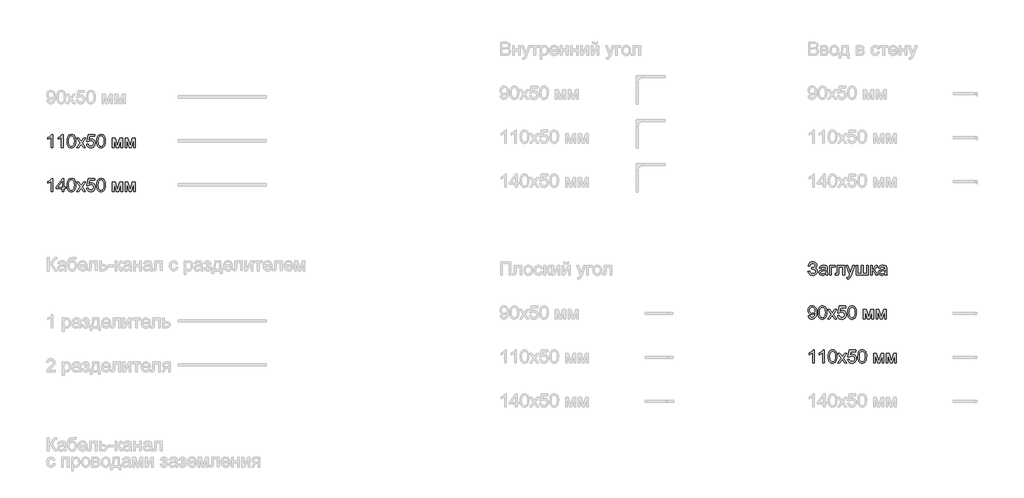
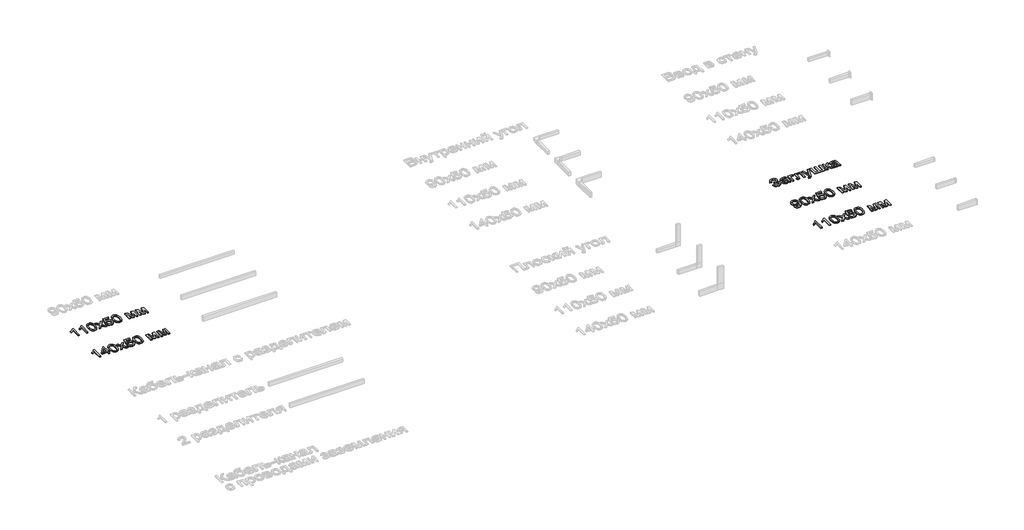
# One storey, part 86 of 168: 5 proxies.
"""IFC4 building model written with IfcOpenShell, lengths in millimetres."""

from ifc_helpers import new_model, si_unit, origin, origin_with_axes, place, context, project, spatial, polyline, outline, extrude, element, save

model = new_model("IFC4")

# Units and contexts
model_context = context("Model", 3, world=origin())
ifc_project = project(units=[si_unit("LENGTHUNIT", "METRE", prefix="MILLI")], contexts=[model_context])

# Site, building, storey
site = spatial("IfcSite", under=ifc_project)
building = spatial("IfcBuilding", under=site)
storey = spatial("IfcBuildingStorey", under=building, Name="Этаж 01", Elevation=0.0)

# Proxies
placement = place(None, origin())
element("IfcBuildingElementProxy", 1, Name="300 мм Arial 2", ObjectType="300 мм Arial 2", at=placement, inside=storey, context=model_context, shape_type="SweptSolid", body=[
    extrude(outline(polyline([(905.9577491, -14248.4056816), (868.2866328, -14248.4056816), (868.2866328, -14013.5498158), (832.6020793, -14038.9704617), (792.9444002, -14057.9899609), (792.9444002, -14022.3789837), (822.5313096, -14006.2841464), (848.1634877, -13987.1358886), (868.3694062, -13966.7736202), (881.6775374, -13947.0367511), (905.9577491, -13947.0367511), (905.9577491, -14248.4056816)])), origin_with_axes(), (0.0, 0.0, 1.0), 20.0),
    extrude(outline(polyline([(1136.6933365, -14248.4056816), (1099.0222202, -14248.4056816), (1099.0222202, -14013.5498158), (1063.3376666, -14038.9704617), (1023.6799876, -14057.9899609), (1023.6799876, -14022.3789837), (1053.266897, -14006.2841464), (1078.899075, -13987.1358886), (1099.1049936, -13966.7736202), (1112.4131248, -13947.0367511), (1136.6933365, -13947.0367511), (1136.6933365, -14248.4056816)])), origin_with_axes(), (0.0, 0.0, 1.0), 20.0),
    extrude(outline(polyline([(1226.1622377, -14100.1492375), (1228.9305497, -14051.9107109), (1237.2354858, -14013.4394512), (1250.9942724, -13984.1468474), (1270.1241361, -13963.4442881), (1294.7630327, -13951.1386354), (1325.048918, -13947.0367511), (1348.2622719, -13949.4647723), (1369.0476046, -13956.7488358), (1386.4300289, -13968.6038331), (1399.4346574, -13984.7446556), (1409.2571067, -14005.0333477), (1417.0929932, -14029.3319534), (1422.224947, -14060.1880558), (1423.9355983, -14100.1492375), (1421.1948774, -14148.1118526), (1412.9727148, -14186.4911418), (1399.2967017, -14215.8113368), (1380.1944291, -14236.5966695), (1355.5003502, -14248.9850957), (1325.048918, -14253.1145711), (1304.3003735, -14251.3211464), (1285.9062737, -14245.9408722), (1269.8666187, -14236.9737486), (1256.1814085, -14224.4197755), (1243.0480213, -14201.7260549), (1233.6670304, -14173.4497251), (1228.0384359, -14139.5907859), (1226.1622377, -14100.1492375)]), holes=[polyline([(1263.833354, -14100.0756611), (1268.2479379, -14159.3322535), (1273.7661679, -14179.6002522), (1281.4916898, -14193.6280525), (1301.2101647, -14209.9896042), (1325.048918, -14215.4434548), (1348.8876713, -14209.9712101), (1368.6061462, -14193.5544761), (1376.3316681, -14179.5036831), (1381.8498981, -14159.240283), (1386.264482, -14100.0756611), (1381.9970509, -14042.152641), (1376.6627619, -14021.9513209), (1369.1947574, -14007.5901275), (1349.5130707, -13990.4284325), (1324.6074596, -13984.7078674), (1301.0262237, -13989.7478508), (1282.080301, -14004.8678008), (1274.0972617, -14020.5027856), (1268.3950907, -14041.5824239), (1263.833354, -14100.0756611)])]), origin_with_axes(), (0.0, 0.0, 1.0), 20.0),
    extrude(outline(polyline([(1442.7711565, -14248.4056816), (1523.263737, -14137.1581662), (1447.480046, -14027.0878733), (1492.8031078, -14027.0878733), (1529.3705781, -14080.0628806), (1546.4403027, -14105.0788562), (1561.2291589, -14084.6246173), (1602.8734008, -14027.0878733), (1648.1964626, -14027.0878733), (1568.5867988, -14137.1581662), (1645.2534066, -14248.4056816), (1599.9303448, -14248.4056816), (1553.7979426, -14181.5247348), (1545.3366567, -14169.3110526), (1488.0942183, -14248.4056816), (1442.7711565, -14248.4056816)])), origin_with_axes(), (0.0, 0.0, 1.0), 20.0),
    extrude(outline(polyline([(1668.7978543, -14168.3545594), (1706.4689706, -14163.6456699), (1713.3851521, -14186.2612155), (1725.4516816, -14202.4572204), (1742.6133766, -14212.1968962), (1764.815055, -14215.4434548), (1791.8175935, -14210.9277033), (1812.0511032, -14197.3804488), (1824.6878498, -14176.3651899), (1828.9000986, -14149.4454249), (1824.9545642, -14124.0983554), (1813.117961, -14104.7109743), (1793.2983185, -14092.4053215), (1765.4036662, -14088.3034373), (1747.1291281, -14089.9405121), (1732.3310749, -14094.8517368), (1711.1778601, -14111.847885), (1673.5067438, -14107.1389954), (1706.4689706, -13951.7456407), (1852.4445463, -13951.7456407), (1852.4445463, -13989.416757), (1736.9295998, -13989.416757), (1720.8163684, -14072.4109351), (1747.7269364, -14056.0769745), (1775.9250913, -14050.632321), (1794.2709065, -14052.3199796), (1811.1222012, -14057.3829556), (1826.4789752, -14065.8212488), (1840.3412286, -14077.6348594), (1851.8168476, -14092.1018189), (1860.0137183, -14108.5001588), (1864.9318408, -14126.8298792), (1866.5712149, -14147.0909801), (1860.6667089, -14184.7620964), (1853.2860764, -14201.5559095), (1842.9531908, -14216.9885592), (1827.2998119, -14232.7936894), (1809.0344709, -14244.0830681), (1788.1571676, -14250.8566954), (1764.6679022, -14253.1145711), (1727.6681706, -14247.3112326), (1711.9894998, -14240.0570595), (1698.1916257, -14229.9012172), (1686.7114082, -14217.3495434), (1677.9857071, -14202.9078758), (1668.7978543, -14168.3545594)])), origin_with_axes(), (0.0, 0.0, 1.0), 20.0),
    extrude(outline(polyline([(1899.5334417, -14100.1492375), (1902.3017537, -14051.9107109), (1910.6066897, -14013.4394512), (1924.3654763, -13984.1468474), (1943.4953401, -13963.4442881), (1968.1342367, -13951.1386354), (1998.420122, -13947.0367511), (2021.6334759, -13949.4647723), (2042.4188086, -13956.7488358), (2059.8012329, -13968.6038331), (2072.8058614, -13984.7446556), (2082.6283107, -14005.0333477), (2090.4641972, -14029.3319534), (2095.596151, -14060.1880558), (2097.3068023, -14100.1492375), (2094.5660814, -14148.1118526), (2086.3439188, -14186.4911418), (2072.6679056, -14215.8113368), (2053.565633, -14236.5966695), (2028.8715541, -14248.9850957), (1998.420122, -14253.1145711), (1977.6715774, -14251.3211464), (1959.2774777, -14245.9408722), (1943.2378227, -14236.9737486), (1929.5526125, -14224.4197755), (1916.4192252, -14201.7260549), (1907.0382344, -14173.4497251), (1901.4096398, -14139.5907859), (1899.5334417, -14100.1492375)]), holes=[polyline([(1937.204558, -14100.0756611), (1941.6191419, -14159.3322535), (1947.1373718, -14179.6002522), (1954.8628937, -14193.6280525), (1974.5813687, -14209.9896042), (1998.420122, -14215.4434548), (2022.2588753, -14209.9712101), (2041.9773502, -14193.5544761), (2049.7028721, -14179.5036831), (2055.221102, -14159.240283), (2059.635686, -14100.0756611), (2055.3682548, -14042.152641), (2050.0339659, -14021.9513209), (2042.5659614, -14007.5901275), (2022.8842747, -13990.4284325), (1997.9786636, -13984.7078674), (1974.3974277, -13989.7478508), (1955.4515049, -14004.8678008), (1947.4684656, -14020.5027856), (1941.7662947, -14041.5824239), (1937.204558, -14100.0756611)])]), origin_with_axes(), (0.0, 0.0, 1.0), 20.0),
    extrude(outline(polyline([(2257.4090466, -14027.0878733), (2322.2298541, -14027.0878733), (2372.1882291, -14204.2598421), (2426.0461532, -14027.0878733), (2488.144634, -14027.0878733), (2488.144634, -14248.4056816), (2450.4735176, -14248.4056816), (2450.4735176, -14070.2036431), (2396.321288, -14248.4056816), (2346.8779478, -14248.4056816), (2295.0801629, -14061.6687808), (2295.0801629, -14248.4056816), (2257.4090466, -14248.4056816), (2257.4090466, -14027.0878733)])), origin_with_axes(), (0.0, 0.0, 1.0), 20.0),
    extrude(outline(polyline([(2544.6513084, -14027.0878733), (2609.472116, -14027.0878733), (2659.4304909, -14204.2598421), (2713.288415, -14027.0878733), (2775.3868958, -14027.0878733), (2775.3868958, -14248.4056816), (2737.7157795, -14248.4056816), (2737.7157795, -14070.2036431), (2683.5635498, -14248.4056816), (2634.1202096, -14248.4056816), (2582.3224247, -14061.6687808), (2582.3224247, -14248.4056816), (2544.6513084, -14248.4056816), (2544.6513084, -14027.0878733)])), origin_with_axes(), (0.0, 0.0, 1.0), 20.0),
])
element("IfcBuildingElementProxy", 2, Name="300 мм Arial 2", ObjectType="300 мм Arial 2", at=placement, inside=storey, context=model_context, shape_type="SweptSolid", body=[
    extrude(outline(polyline([(905.9577491, -15248.4056816), (868.2866328, -15248.4056816), (868.2866328, -15013.5498158), (832.6020793, -15038.9704617), (792.9444002, -15057.9899609), (792.9444002, -15022.3789837), (822.5313096, -15006.2841464), (848.1634877, -14987.1358886), (868.3694062, -14966.7736202), (881.6775374, -14947.0367511), (905.9577491, -14947.0367511), (905.9577491, -15248.4056816)])), origin_with_axes(), (0.0, 0.0, 1.0), 20.0),
    extrude(outline(polyline([(1117.8577783, -15248.4056816), (1117.8577783, -15177.7723385), (981.2999817, -15177.7723385), (981.2999817, -15140.1012222), (1127.2755574, -14951.7456407), (1155.5288946, -14951.7456407), (1155.5288946, -15140.1012222), (1193.2000109, -15140.1012222), (1193.2000109, -15177.7723385), (1155.5288946, -15177.7723385), (1155.5288946, -15248.4056816), (1117.8577783, -15248.4056816)]), holes=[polyline([(1117.8577783, -15140.1012222), (1117.8577783, -15023.7033589), (1027.6531131, -15140.1012222), (1117.8577783, -15140.1012222)])]), origin_with_axes(), (0.0, 0.0, 1.0), 20.0),
    extrude(outline(polyline([(1226.1622377, -15100.1492375), (1228.9305497, -15051.9107109), (1237.2354858, -15013.4394512), (1250.9942724, -14984.1468474), (1270.1241361, -14963.4442881), (1294.7630327, -14951.1386354), (1325.048918, -14947.0367511), (1348.2622719, -14949.4647723), (1369.0476046, -14956.7488358), (1386.4300289, -14968.6038331), (1399.4346574, -14984.7446556), (1409.2571067, -15005.0333477), (1417.0929932, -15029.3319534), (1422.224947, -15060.1880558), (1423.9355983, -15100.1492375), (1421.1948774, -15148.1118526), (1412.9727148, -15186.4911418), (1399.2967017, -15215.8113368), (1380.1944291, -15236.5966695), (1355.5003502, -15248.9850957), (1325.048918, -15253.1145711), (1304.3003735, -15251.3211464), (1285.9062737, -15245.9408722), (1269.8666187, -15236.9737486), (1256.1814085, -15224.4197755), (1243.0480213, -15201.7260549), (1233.6670304, -15173.4497251), (1228.0384359, -15139.5907859), (1226.1622377, -15100.1492375)]), holes=[polyline([(1263.833354, -15100.0756611), (1268.2479379, -15159.3322535), (1273.7661679, -15179.6002522), (1281.4916898, -15193.6280525), (1301.2101647, -15209.9896042), (1325.048918, -15215.4434548), (1348.8876713, -15209.9712101), (1368.6061462, -15193.5544761), (1376.3316681, -15179.5036831), (1381.8498981, -15159.240283), (1386.264482, -15100.0756611), (1381.9970509, -15042.152641), (1376.6627619, -15021.9513209), (1369.1947574, -15007.5901275), (1349.5130707, -14990.4284325), (1324.6074596, -14984.7078674), (1301.0262237, -14989.7478508), (1282.080301, -15004.8678008), (1274.0972617, -15020.5027856), (1268.3950907, -15041.5824239), (1263.833354, -15100.0756611)])]), origin_with_axes(), (0.0, 0.0, 1.0), 20.0),
    extrude(outline(polyline([(1442.7711565, -15248.4056816), (1523.263737, -15137.1581662), (1447.480046, -15027.0878733), (1492.8031078, -15027.0878733), (1529.3705781, -15080.0628806), (1546.4403027, -15105.0788562), (1561.2291589, -15084.6246173), (1602.8734008, -15027.0878733), (1648.1964626, -15027.0878733), (1568.5867988, -15137.1581662), (1645.2534066, -15248.4056816), (1599.9303448, -15248.4056816), (1553.7979426, -15181.5247348), (1545.3366567, -15169.3110526), (1488.0942183, -15248.4056816), (1442.7711565, -15248.4056816)])), origin_with_axes(), (0.0, 0.0, 1.0), 20.0),
    extrude(outline(polyline([(1668.7978543, -15168.3545594), (1706.4689706, -15163.6456699), (1713.3851521, -15186.2612155), (1725.4516816, -15202.4572204), (1742.6133766, -15212.1968962), (1764.815055, -15215.4434548), (1791.8175935, -15210.9277033), (1812.0511032, -15197.3804488), (1824.6878498, -15176.3651899), (1828.9000986, -15149.4454249), (1824.9545642, -15124.0983554), (1813.117961, -15104.7109743), (1793.2983185, -15092.4053215), (1765.4036662, -15088.3034373), (1747.1291281, -15089.9405121), (1732.3310749, -15094.8517368), (1711.1778601, -15111.847885), (1673.5067438, -15107.1389954), (1706.4689706, -14951.7456407), (1852.4445463, -14951.7456407), (1852.4445463, -14989.416757), (1736.9295998, -14989.416757), (1720.8163684, -15072.4109351), (1747.7269364, -15056.0769745), (1775.9250913, -15050.632321), (1794.2709065, -15052.3199796), (1811.1222012, -15057.3829556), (1826.4789752, -15065.8212488), (1840.3412286, -15077.6348594), (1851.8168476, -15092.1018189), (1860.0137183, -15108.5001588), (1864.9318408, -15126.8298792), (1866.5712149, -15147.0909801), (1860.6667089, -15184.7620964), (1853.2860764, -15201.5559095), (1842.9531908, -15216.9885592), (1827.2998119, -15232.7936894), (1809.0344709, -15244.0830681), (1788.1571676, -15250.8566954), (1764.6679022, -15253.1145711), (1727.6681706, -15247.3112326), (1711.9894998, -15240.0570595), (1698.1916257, -15229.9012172), (1686.7114082, -15217.3495434), (1677.9857071, -15202.9078758), (1668.7978543, -15168.3545594)])), origin_with_axes(), (0.0, 0.0, 1.0), 20.0),
    extrude(outline(polyline([(1899.5334417, -15100.1492375), (1902.3017537, -15051.9107109), (1910.6066897, -15013.4394512), (1924.3654763, -14984.1468474), (1943.4953401, -14963.4442881), (1968.1342367, -14951.1386354), (1998.420122, -14947.0367511), (2021.6334759, -14949.4647723), (2042.4188086, -14956.7488358), (2059.8012329, -14968.6038331), (2072.8058614, -14984.7446556), (2082.6283107, -15005.0333477), (2090.4641972, -15029.3319534), (2095.596151, -15060.1880558), (2097.3068023, -15100.1492375), (2094.5660814, -15148.1118526), (2086.3439188, -15186.4911418), (2072.6679056, -15215.8113368), (2053.565633, -15236.5966695), (2028.8715541, -15248.9850957), (1998.420122, -15253.1145711), (1977.6715774, -15251.3211464), (1959.2774777, -15245.9408722), (1943.2378227, -15236.9737486), (1929.5526125, -15224.4197755), (1916.4192252, -15201.7260549), (1907.0382344, -15173.4497251), (1901.4096398, -15139.5907859), (1899.5334417, -15100.1492375)]), holes=[polyline([(1937.204558, -15100.0756611), (1941.6191419, -15159.3322535), (1947.1373718, -15179.6002522), (1954.8628937, -15193.6280525), (1974.5813687, -15209.9896042), (1998.420122, -15215.4434548), (2022.2588753, -15209.9712101), (2041.9773502, -15193.5544761), (2049.7028721, -15179.5036831), (2055.221102, -15159.240283), (2059.635686, -15100.0756611), (2055.3682548, -15042.152641), (2050.0339659, -15021.9513209), (2042.5659614, -15007.5901275), (2022.8842747, -14990.4284325), (1997.9786636, -14984.7078674), (1974.3974277, -14989.7478508), (1955.4515049, -15004.8678008), (1947.4684656, -15020.5027856), (1941.7662947, -15041.5824239), (1937.204558, -15100.0756611)])]), origin_with_axes(), (0.0, 0.0, 1.0), 20.0),
    extrude(outline(polyline([(2257.4090466, -15027.0878733), (2322.2298541, -15027.0878733), (2372.1882291, -15204.2598421), (2426.0461532, -15027.0878733), (2488.144634, -15027.0878733), (2488.144634, -15248.4056816), (2450.4735176, -15248.4056816), (2450.4735176, -15070.2036431), (2396.321288, -15248.4056816), (2346.8779478, -15248.4056816), (2295.0801629, -15061.6687808), (2295.0801629, -15248.4056816), (2257.4090466, -15248.4056816), (2257.4090466, -15027.0878733)])), origin_with_axes(), (0.0, 0.0, 1.0), 20.0),
    extrude(outline(polyline([(2544.6513084, -15027.0878733), (2609.472116, -15027.0878733), (2659.4304909, -15204.2598421), (2713.288415, -15027.0878733), (2775.3868958, -15027.0878733), (2775.3868958, -15248.4056816), (2737.7157795, -15248.4056816), (2737.7157795, -15070.2036431), (2683.5635498, -15248.4056816), (2634.1202096, -15248.4056816), (2582.3224247, -15061.6687808), (2582.3224247, -15248.4056816), (2544.6513084, -15248.4056816), (2544.6513084, -15027.0878733)])), origin_with_axes(), (0.0, 0.0, 1.0), 20.0),
])
element("IfcBuildingElementProxy", 3, Name="300 мм Arial 2", ObjectType="300 мм Arial 2", at=placement, inside=storey, context=model_context, shape_type="SweptSolid", body=[
    extrude(outline(polyline([(18064.6910629, -17063.6456699), (18102.3621793, -17054.2278908), (18110.3176274, -17074.6177504), (18125.5019568, -17095.0260041), (18147.3633443, -17110.3390921), (18175.3499671, -17115.4434548), (18203.7044719, -17111.608285), (18225.3451302, -17100.1027756), (18239.0579316, -17083.1710068), (18243.6288654, -17063.0570587), (18238.6348673, -17041.9866174), (18223.6528731, -17025.7170362), (18200.0624401, -17015.3151728), (18169.243126, -17011.847885), (18149.4510746, -17011.847885), (18149.4510746, -16974.1767687), (18192.0885979, -16971.1233481), (18205.9853402, -16965.6970887), (18218.1714313, -16955.5251515), (18226.6695054, -16942.1250498), (18229.5021968, -16927.0142969), (18225.7314063, -16909.2731877), (18214.419035, -16894.0152819), (18196.6687287, -16883.5030539), (18173.5841335, -16879.9989779), (18152.7160273, -16882.6937135), (18135.140465, -16890.7779203), (18121.675984, -16903.3134993), (18113.1411217, -16919.3623514), (18107.0710688, -16945.9234314), (18069.3999525, -16936.5056523), (18081.1031985, -16895.3028689), (18090.5175286, -16879.1160611), (18102.306997, -16865.8723093), (18116.4716034, -16855.5716134), (18133.011348, -16848.2139735), (18151.9262307, -16843.7993896), (18173.2162515, -16842.3278616), (18193.727972, -16843.8568711), (18212.0002109, -16848.4438998), (18228.0329681, -16856.0889475), (18241.8262436, -16866.7920143), (18252.9155865, -16879.5414247), (18260.8365457, -16893.3255032), (18265.5891213, -16908.1442498), (18267.1733131, -16923.9976645), (18264.7085037, -16943.8219055), (18257.3140756, -16961.2825047), (18244.9900288, -16976.3794621), (18227.7363632, -16989.1127777), (18248.6872428, -16998.760483), (18265.9225143, -17015.0484583), (18277.4556149, -17036.5787521), (18281.2999817, -17061.9534127), (18279.4559732, -17080.5843365), (18273.9239477, -17097.6287692), (18264.7039052, -17113.0867108), (18251.7958457, -17126.9581613), (18235.8435627, -17138.4015906), (18217.4908496, -17146.5754686), (18196.7377066, -17151.4797955), (18173.5841335, -17153.1145711), (18135.3795883, -17147.5227648), (18119.0226351, -17140.5330069), (18104.4958948, -17130.7473458), (18091.7993675, -17118.1657816), (18080.933053, -17102.7883142), (18064.6910629, -17063.6456699)])), origin_with_axes(), (0.0, 0.0, 1.0), 20.0),
    extrude(outline(polyline([(18469.6555632, -17120.1523443), (18451.6569366, -17135.584994), (18433.1248811, -17145.6833548), (18413.6363324, -17151.256767), (18392.7682262, -17153.1145711), (18361.2867245, -17148.6448049), (18338.0641736, -17135.2355061), (18323.7443669, -17114.8732377), (18318.971098, -17089.5445623), (18320.7737198, -17073.9279716), (18326.1815851, -17059.7461207), (18334.5233094, -17047.6060149), (18345.1275079, -17038.1146594), (18371.5046469, -17025.7538244), (18404.0989917, -17020.0884417), (18442.6162366, -17014.1287533), (18469.434834, -17007.1389954), (18469.6555632, -16998.7512859), (18467.0619952, -16981.9390788), (18459.281291, -16970.9394071), (18441.8804726, -16962.7724268), (18417.6370491, -16960.0501), (18395.1962474, -16961.8619189), (18379.5244744, -16967.2973753), (18368.8375025, -16977.3497509), (18361.3511039, -16993.0123268), (18323.6799876, -16988.3034373), (18330.21909, -16967.7020455), (18339.9771599, -16951.5152378), (18353.8647053, -16939.1360086), (18372.7922339, -16929.9573528), (18395.9412085, -16924.273576), (18422.4930915, -16922.3789837), (18447.9597226, -16924.0528468), (18468.1472471, -16929.074436), (18483.3683646, -16936.625214), (18493.9357749, -16945.8866432), (18500.9439269, -16957.3369703), (18505.4872696, -16971.4544419), (18507.3266795, -17004.4166687), (18507.3266795, -17051.2848348), (18509.2396659, -17116.7310418), (18516.7444586, -17148.4056816), (18479.0733423, -17148.4056816), (18469.6555632, -17120.1523443)]), holes=[polyline([(18469.6555632, -17044.8101117), (18408.8814576, -17056.3616064), (18376.4710539, -17062.4684475), (18361.7925623, -17072.4012614), (18356.6422143, -17086.895812), (18359.4473145, -17098.0978187), (18367.8626152, -17107.2764745), (18381.7041752, -17113.4017097), (18400.7880537, -17115.4434548), (18421.0215635, -17113.1901776), (18438.9006284, -17106.4303459), (18453.3951791, -17096.4699409), (18463.4751457, -17084.6149436), (18467.944912, -17072.4012614), (18469.434834, -17055.4786896), (18469.6555632, -17044.8101117)])]), origin_with_axes(), (0.0, 0.0, 1.0), 20.0),
    extrude(outline(polyline([(18559.1244645, -16927.0878733), (18681.5555925, -16927.0878733), (18681.5555925, -16964.7589896), (18596.7955808, -16964.7589896), (18596.7955808, -17148.4056816), (18559.1244645, -17148.4056816), (18559.1244645, -16927.0878733)])), origin_with_axes(), (0.0, 0.0, 1.0), 20.0),
    extrude(outline(polyline([(18728.6444878, -16927.0878733), (18898.1645112, -16927.0878733), (18898.1645112, -17148.1849524), (18860.4933949, -17148.1849524), (18860.4933949, -16964.7589896), (18766.3156041, -16964.7589896), (18766.3156041, -17070.3411222), (18763.7772184, -17119.0486984), (18759.0223436, -17130.0759612), (18749.8344908, -17139.6133019), (18735.8917631, -17146.2075866), (18716.872264, -17148.4056816), (18686.264482, -17146.4926952), (18686.264482, -17110.7345653), (18703.1134774, -17110.7345653), (18720.1464138, -17108.4169087), (18726.9522307, -17101.0592688), (18728.6444878, -17068.2074066), (18728.6444878, -16927.0878733)])), origin_with_axes(), (0.0, 0.0, 1.0), 20.0),
    extrude(outline(polyline([(18954.6711857, -17233.1656933), (18949.9622961, -17196.8925285), (18969.0921599, -17200.2034665), (18986.9712249, -17196.0463999), (18997.9341083, -17184.4581171), (19008.2348042, -17156.7198147), (19011.1778601, -17147.5963412), (18931.126738, -16927.0878733), (18970.8579935, -16927.0878733), (19013.3115757, -17049.9604597), (19028.1004319, -17099.1094942), (19042.8892881, -17055.6994188), (19086.5200928, -16927.0878733), (19125.9570426, -16927.0878733), (19048.9225528, -17153.7031823), (19028.9097723, -17202.8522169), (19018.6642587, -17218.5423839), (19007.0575818, -17229.4132969), (18993.5747067, -17235.7592613), (18977.7005986, -17237.8745828), (18954.6711857, -17233.1656933)])), origin_with_axes(), (0.0, 0.0, 1.0), 20.0),
    extrude(outline(polyline([(19157.1534358, -16927.0878733), (19194.8245521, -16927.0878733), (19194.8245521, -17110.7345653), (19279.5845638, -17110.7345653), (19279.5845638, -16927.0878733), (19317.2556801, -16927.0878733), (19317.2556801, -17110.7345653), (19402.0156918, -17110.7345653), (19402.0156918, -16927.0878733), (19439.6868081, -16927.0878733), (19439.6868081, -17148.4056816), (19157.1534358, -17148.4056816), (19157.1534358, -16927.0878733)])), origin_with_axes(), (0.0, 0.0, 1.0), 20.0),
    extrude(outline(polyline([(19491.484593, -16927.0878733), (19529.1557093, -16927.0878733), (19529.1557093, -17021.265664), (19544.4779944, -17019.5734069), (19554.3924142, -17014.4966353), (19563.1663998, -17001.2528835), (19575.0673823, -16975.0596854), (19592.2474715, -16941.0306009), (19607.4042097, -16929.9573528), (19634.9585712, -16927.0878733), (19642.1690583, -16927.0878733), (19642.1690583, -16964.9797188), (19632.0155152, -16964.7589896), (19613.6214154, -16968.7321151), (19600.6719692, -16993.5273616), (19585.4784428, -17020.345959), (19564.1780753, -17033.4793463), (19576.115846, -17038.7814455), (19587.9432522, -17048.1394438), (19611.2669707, -17079.0231373), (19651.5868373, -17148.4056816), (19608.7653731, -17148.4056816), (19569.2548468, -17080.4946653), (19549.3892191, -17051.7630814), (19540.1001987, -17046.5483542), (19529.1557093, -17044.8101117), (19529.1557093, -17148.4056816), (19491.484593, -17148.4056816), (19491.484593, -16927.0878733)])), origin_with_axes(), (0.0, 0.0, 1.0), 20.0),
    extrude(outline(polyline([(19816.3979712, -17120.1523443), (19798.3993446, -17135.584994), (19779.8672891, -17145.6833548), (19760.3787404, -17151.256767), (19739.5106342, -17153.1145711), (19708.0291325, -17148.6448049), (19684.8065815, -17135.2355061), (19670.4867748, -17114.8732377), (19665.713506, -17089.5445623), (19667.5161277, -17073.9279716), (19672.9239931, -17059.7461207), (19681.2657173, -17047.6060149), (19691.8699158, -17038.1146594), (19718.2470549, -17025.7538244), (19750.8413996, -17020.0884417), (19789.3586445, -17014.1287533), (19816.177242, -17007.1389954), (19816.3979712, -16998.7512859), (19813.8044031, -16981.9390788), (19806.0236989, -16970.9394071), (19788.6228805, -16962.7724268), (19764.3794571, -16960.0501), (19741.9386554, -16961.8619189), (19726.2668824, -16967.2973753), (19715.5799104, -16977.3497509), (19708.0935118, -16993.0123268), (19670.4223955, -16988.3034373), (19676.961498, -16967.7020455), (19686.7195679, -16951.5152378), (19700.6071132, -16939.1360086), (19719.5346419, -16929.9573528), (19742.6836164, -16924.273576), (19769.2354994, -16922.3789837), (19794.7021305, -16924.0528468), (19814.889655, -16929.074436), (19830.1107726, -16936.625214), (19840.6781829, -16945.8866432), (19847.6863349, -16957.3369703), (19852.2296775, -16971.4544419), (19854.0690875, -17004.4166687), (19854.0690875, -17051.2848348), (19855.9820739, -17116.7310418), (19863.4868666, -17148.4056816), (19825.8157503, -17148.4056816), (19816.3979712, -17120.1523443)]), holes=[polyline([(19816.3979712, -17044.8101117), (19755.6238656, -17056.3616064), (19723.2134618, -17062.4684475), (19708.5349702, -17072.4012614), (19703.3846223, -17086.895812), (19706.1897225, -17098.0978187), (19714.6050231, -17107.2764745), (19728.4465832, -17113.4017097), (19747.5304617, -17115.4434548), (19767.7639714, -17113.1901776), (19785.6430364, -17106.4303459), (19800.137587, -17096.4699409), (19810.2175537, -17084.6149436), (19814.6873199, -17072.4012614), (19816.177242, -17055.4786896), (19816.3979712, -17044.8101117)])]), origin_with_axes(), (0.0, 0.0, 1.0), 20.0),
])
element("IfcBuildingElementProxy", 4, Name="300 мм Arial 2", ObjectType="300 мм Arial 2", at=placement, inside=storey, context=model_context, shape_type="SweptSolid", body=[
    extrude(outline(polyline([(18069.3999525, -18073.063449), (18107.0710688, -18068.3545594), (18113.5090037, -18089.7377004), (18123.9936406, -18104.2966303), (18138.267462, -18112.6567487), (18156.0729505, -18115.4434548), (18172.0482262, -18113.6500301), (18186.5703679, -18108.2697559), (18198.6368974, -18099.8912435), (18207.2453361, -18089.1031039), (18219.5693829, -18056.3616064), (18225.0140364, -18012.6572253), (18224.7933072, -18005.2995854), (18211.7426935, -18021.2288758), (18194.6637718, -18033.8472283), (18174.7889471, -18042.0693909), (18153.3506238, -18044.8101117), (18135.455464, -18043.1362486), (18118.9996425, -18038.1146594), (18103.9831593, -18029.745344), (18090.4060144, -18018.0283025), (18079.1557231, -18003.5751386), (18071.1198008, -17986.9974562), (18066.2982474, -17968.2952553), (18064.6910629, -17947.4685358), (18066.3764223, -17925.9474391), (18071.4325005, -17906.6336343), (18079.8592975, -17889.5271216), (18091.6568132, -17874.6279008), (18105.9927147, -17862.5567728), (18122.0346689, -17853.9345385), (18139.782676, -17848.761198), (18159.2367357, -17847.0367511), (18187.3337231, -17850.9730885), (18212.9107188, -17862.7821005), (18234.3030568, -17881.8751761), (18249.8460711, -17907.6637039), (18259.3098354, -17943.3114693), (18262.4644236, -17991.9822572), (18259.3190325, -18043.5869041), (18249.8828593, -18083.4745094), (18234.2386775, -18113.447695), (18212.4692604, -18135.3090825), (18185.5127072, -18148.663199), (18154.307117, -18153.1145711), (18122.0990483, -18147.8630556), (18096.4024909, -18132.1085092), (18078.4314555, -18106.8442132), (18069.3999525, -18073.063449)]), holes=[polyline([(18224.7933072, -17946.585619), (18220.7282112, -17921.0546085), (18208.5329231, -17901.40971), (18189.6053944, -17888.8833281), (18165.3435768, -17884.7078674), (18140.1804484, -17889.2052248), (18120.020515, -17902.697297), (18106.7767632, -17923.344674), (18102.3621793, -17949.3079458), (18106.5376399, -17972.585679), (18119.0640218, -17991.0625522), (18138.7273145, -18003.1198846), (18164.3135072, -18007.1389954), (18188.3821868, -18003.1198846), (18207.7603709, -17991.0625522), (18220.5350732, -17971.9050973), (18224.7933072, -17946.585619)])]), origin_with_axes(), (0.0, 0.0, 1.0), 20.0),
    extrude(outline(polyline([(18295.4266503, -18000.1492375), (18298.1949623, -17951.9107109), (18306.4998984, -17913.4394512), (18320.258685, -17884.1468474), (18339.3885487, -17863.4442881), (18364.0274454, -17851.1386354), (18394.3133306, -17847.0367511), (18417.5266845, -17849.4647723), (18438.3120172, -17856.7488358), (18455.6944415, -17868.6038331), (18468.6990701, -17884.7446556), (18478.5215193, -17905.0333477), (18486.3574058, -17929.3319534), (18491.4893597, -17960.1880558), (18493.2000109, -18000.1492375), (18490.4592901, -18048.1118526), (18482.2371275, -18086.4911418), (18468.5611143, -18115.8113368), (18449.4588417, -18136.5966695), (18424.7647628, -18148.9850957), (18394.3133306, -18153.1145711), (18373.5647861, -18151.3211464), (18355.1706863, -18145.9408722), (18339.1310313, -18136.9737486), (18325.4458211, -18124.4197755), (18312.3124339, -18101.7260549), (18302.931443, -18073.4497251), (18297.3028485, -18039.5907859), (18295.4266503, -18000.1492375)]), holes=[polyline([(18333.0977666, -18000.0756611), (18337.5123506, -18059.3322535), (18343.0305805, -18079.6002522), (18350.7561024, -18093.6280525), (18370.4745773, -18109.9896042), (18394.3133306, -18115.4434548), (18418.1520839, -18109.9712101), (18437.8705589, -18093.5544761), (18445.5960808, -18079.5036831), (18451.1143107, -18059.240283), (18455.5288946, -18000.0756611), (18451.2614635, -17942.152641), (18445.9271745, -17921.9513209), (18438.45917, -17907.5901275), (18418.7774833, -17890.4284325), (18393.8718722, -17884.7078674), (18370.2906363, -17889.7478508), (18351.3447136, -17904.8678008), (18343.3616743, -17920.5027856), (18337.6595034, -17941.5824239), (18333.0977666, -18000.0756611)])]), origin_with_axes(), (0.0, 0.0, 1.0), 20.0),
    extrude(outline(polyline([(18512.0355691, -18148.4056816), (18592.5281496, -18037.1581662), (18516.7444586, -17927.0878733), (18562.0675204, -17927.0878733), (18598.6349907, -17980.0628806), (18615.7047153, -18005.0788562), (18630.4935715, -17984.6246173), (18672.1378134, -17927.0878733), (18717.4608752, -17927.0878733), (18637.8512114, -18037.1581662), (18714.5178192, -18148.4056816), (18669.1947574, -18148.4056816), (18623.0623552, -18081.5247348), (18614.6010693, -18069.3110526), (18557.3586309, -18148.4056816), (18512.0355691, -18148.4056816)])), origin_with_axes(), (0.0, 0.0, 1.0), 20.0),
    extrude(outline(polyline([(18738.0622669, -18068.3545594), (18775.7333832, -18063.6456699), (18782.6495647, -18086.2612155), (18794.7160942, -18102.4572204), (18811.8777893, -18112.1968962), (18834.0794677, -18115.4434548), (18861.0820061, -18110.9277033), (18881.3155158, -18097.3804488), (18893.9522624, -18076.3651899), (18898.1645112, -18049.4454249), (18894.2189768, -18024.0983554), (18882.3823736, -18004.7109743), (18862.5627311, -17992.4053215), (18834.6680789, -17988.3034373), (18816.3935407, -17989.9405121), (18801.5954875, -17994.8517368), (18780.4422728, -18011.847885), (18742.7711565, -18007.1389954), (18775.7333832, -17851.7456407), (18921.7089589, -17851.7456407), (18921.7089589, -17889.416757), (18806.1940124, -17889.416757), (18790.080781, -17972.4109351), (18816.991349, -17956.0769745), (18845.1895039, -17950.632321), (18863.5353192, -17952.3199796), (18880.3866138, -17957.3829556), (18895.7433878, -17965.8212488), (18909.6056413, -17977.6348594), (18921.0812603, -17992.1018189), (18929.278131, -18008.5001588), (18934.1962534, -18026.8298792), (18935.8356275, -18047.0909801), (18929.9311215, -18084.7620964), (18922.550489, -18101.5559095), (18912.2176034, -18116.9885592), (18896.5642245, -18132.7936894), (18878.2988835, -18144.0830681), (18857.4215803, -18150.8566954), (18833.9323149, -18153.1145711), (18796.9325832, -18147.3112326), (18781.2539124, -18140.0570595), (18767.4560383, -18129.9012172), (18755.9758208, -18117.3495434), (18747.2501197, -18102.9078758), (18738.0622669, -18068.3545594)])), origin_with_axes(), (0.0, 0.0, 1.0), 20.0),
    extrude(outline(polyline([(18968.7978543, -18000.1492375), (18971.5661663, -17951.9107109), (18979.8711023, -17913.4394512), (18993.629889, -17884.1468474), (19012.7597527, -17863.4442881), (19037.3986493, -17851.1386354), (19067.6845346, -17847.0367511), (19090.8978885, -17849.4647723), (19111.6832212, -17856.7488358), (19129.0656455, -17868.6038331), (19142.070274, -17884.7446556), (19151.8927233, -17905.0333477), (19159.7286098, -17929.3319534), (19164.8605636, -17960.1880558), (19166.5712149, -18000.1492375), (19163.830494, -18048.1118526), (19155.6083314, -18086.4911418), (19141.9323183, -18115.8113368), (19122.8300457, -18136.5966695), (19098.1359667, -18148.9850957), (19067.6845346, -18153.1145711), (19046.9359901, -18151.3211464), (19028.5418903, -18145.9408722), (19012.5022353, -18136.9737486), (18998.8170251, -18124.4197755), (18985.6836379, -18101.7260549), (18976.302647, -18073.4497251), (18970.6740525, -18039.5907859), (18968.7978543, -18000.1492375)]), holes=[polyline([(19006.4689706, -18000.0756611), (19010.8835545, -18059.3322535), (19016.4017845, -18079.6002522), (19024.1273064, -18093.6280525), (19043.8457813, -18109.9896042), (19067.6845346, -18115.4434548), (19091.5232879, -18109.9712101), (19111.2417628, -18093.5544761), (19118.9672847, -18079.5036831), (19124.4855147, -18059.240283), (19128.9000986, -18000.0756611), (19124.6326675, -17942.152641), (19119.2983785, -17921.9513209), (19111.830374, -17907.5901275), (19092.1486873, -17890.4284325), (19067.2430762, -17884.7078674), (19043.6618403, -17889.7478508), (19024.7159176, -17904.8678008), (19016.7328783, -17920.5027856), (19011.0307073, -17941.5824239), (19006.4689706, -18000.0756611)])]), origin_with_axes(), (0.0, 0.0, 1.0), 20.0),
    extrude(outline(polyline([(19326.6734592, -17927.0878733), (19391.4942668, -17927.0878733), (19441.4526417, -18104.2598421), (19495.3105658, -17927.0878733), (19557.4090466, -17927.0878733), (19557.4090466, -18148.4056816), (19519.7379303, -18148.4056816), (19519.7379303, -17970.2036431), (19465.5857006, -18148.4056816), (19416.1423604, -18148.4056816), (19364.3445755, -17961.6687808), (19364.3445755, -18148.4056816), (19326.6734592, -18148.4056816), (19326.6734592, -17927.0878733)])), origin_with_axes(), (0.0, 0.0, 1.0), 20.0),
    extrude(outline(polyline([(19613.915721, -17927.0878733), (19678.7365286, -17927.0878733), (19728.6949035, -18104.2598421), (19782.5528276, -17927.0878733), (19844.6513084, -17927.0878733), (19844.6513084, -18148.4056816), (19806.9801921, -18148.4056816), (19806.9801921, -17970.2036431), (19752.8279624, -18148.4056816), (19703.3846223, -18148.4056816), (19651.5868373, -17961.6687808), (19651.5868373, -18148.4056816), (19613.915721, -18148.4056816), (19613.915721, -17927.0878733)])), origin_with_axes(), (0.0, 0.0, 1.0), 20.0),
])
element("IfcBuildingElementProxy", 5, Name="300 мм Arial 2", ObjectType="300 мм Arial 2", at=placement, inside=storey, context=model_context, shape_type="SweptSolid", body=[
    extrude(outline(polyline([(18205.9577491, -19148.4056816), (18168.2866328, -19148.4056816), (18168.2866328, -18913.5498158), (18132.6020793, -18938.9704617), (18092.9444002, -18957.9899609), (18092.9444002, -18922.3789837), (18122.5313096, -18906.2841464), (18148.1634877, -18887.1358886), (18168.3694062, -18866.7736202), (18181.6775374, -18847.0367511), (18205.9577491, -18847.0367511), (18205.9577491, -19148.4056816)])), origin_with_axes(), (0.0, 0.0, 1.0), 20.0),
    extrude(outline(polyline([(18436.6933365, -19148.4056816), (18399.0222202, -19148.4056816), (18399.0222202, -18913.5498158), (18363.3376666, -18938.9704617), (18323.6799876, -18957.9899609), (18323.6799876, -18922.3789837), (18353.266897, -18906.2841464), (18378.899075, -18887.1358886), (18399.1049936, -18866.7736202), (18412.4131248, -18847.0367511), (18436.6933365, -18847.0367511), (18436.6933365, -19148.4056816)])), origin_with_axes(), (0.0, 0.0, 1.0), 20.0),
    extrude(outline(polyline([(18526.1622377, -19000.1492375), (18528.9305497, -18951.9107109), (18537.2354858, -18913.4394512), (18550.9942724, -18884.1468474), (18570.1241361, -18863.4442881), (18594.7630327, -18851.1386354), (18625.048918, -18847.0367511), (18648.2622719, -18849.4647723), (18669.0476046, -18856.7488358), (18686.4300289, -18868.6038331), (18699.4346574, -18884.7446556), (18709.2571067, -18905.0333477), (18717.0929932, -18929.3319534), (18722.224947, -18960.1880558), (18723.9355983, -19000.1492375), (18721.1948774, -19048.1118526), (18712.9727148, -19086.4911418), (18699.2967017, -19115.8113368), (18680.1944291, -19136.5966695), (18655.5003502, -19148.9850957), (18625.048918, -19153.1145711), (18604.3003735, -19151.3211464), (18585.9062737, -19145.9408722), (18569.8666187, -19136.9737486), (18556.1814085, -19124.4197755), (18543.0480213, -19101.7260549), (18533.6670304, -19073.4497251), (18528.0384359, -19039.5907859), (18526.1622377, -19000.1492375)]), holes=[polyline([(18563.833354, -19000.0756611), (18568.2479379, -19059.3322535), (18573.7661679, -19079.6002522), (18581.4916898, -19093.6280525), (18601.2101647, -19109.9896042), (18625.048918, -19115.4434548), (18648.8876713, -19109.9712101), (18668.6061462, -19093.5544761), (18676.3316681, -19079.5036831), (18681.8498981, -19059.240283), (18686.264482, -19000.0756611), (18681.9970509, -18942.152641), (18676.6627619, -18921.9513209), (18669.1947574, -18907.5901275), (18649.5130707, -18890.4284325), (18624.6074596, -18884.7078674), (18601.0262237, -18889.7478508), (18582.080301, -18904.8678008), (18574.0972617, -18920.5027856), (18568.3950907, -18941.5824239), (18563.833354, -19000.0756611)])]), origin_with_axes(), (0.0, 0.0, 1.0), 20.0),
    extrude(outline(polyline([(18742.7711565, -19148.4056816), (18823.263737, -19037.1581662), (18747.480046, -18927.0878733), (18792.8031078, -18927.0878733), (18829.3705781, -18980.0628806), (18846.4403027, -19005.0788562), (18861.2291589, -18984.6246173), (18902.8734008, -18927.0878733), (18948.1964626, -18927.0878733), (18868.5867988, -19037.1581662), (18945.2534066, -19148.4056816), (18899.9303448, -19148.4056816), (18853.7979426, -19081.5247348), (18845.3366567, -19069.3110526), (18788.0942183, -19148.4056816), (18742.7711565, -19148.4056816)])), origin_with_axes(), (0.0, 0.0, 1.0), 20.0),
    extrude(outline(polyline([(18968.7978543, -19068.3545594), (19006.4689706, -19063.6456699), (19013.3851521, -19086.2612155), (19025.4516816, -19102.4572204), (19042.6133766, -19112.1968962), (19064.815055, -19115.4434548), (19091.8175935, -19110.9277033), (19112.0511032, -19097.3804488), (19124.6878498, -19076.3651899), (19128.9000986, -19049.4454249), (19124.9545642, -19024.0983554), (19113.117961, -19004.7109743), (19093.2983185, -18992.4053215), (19065.4036662, -18988.3034373), (19047.1291281, -18989.9405121), (19032.3310749, -18994.8517368), (19011.1778601, -19011.847885), (18973.5067438, -19007.1389954), (19006.4689706, -18851.7456407), (19152.4445463, -18851.7456407), (19152.4445463, -18889.416757), (19036.9295998, -18889.416757), (19020.8163684, -18972.4109351), (19047.7269364, -18956.0769745), (19075.9250913, -18950.632321), (19094.2709065, -18952.3199796), (19111.1222012, -18957.3829556), (19126.4789752, -18965.8212488), (19140.3412286, -18977.6348594), (19151.8168476, -18992.1018189), (19160.0137183, -19008.5001588), (19164.9318408, -19026.8298792), (19166.5712149, -19047.0909801), (19160.6667089, -19084.7620964), (19153.2860764, -19101.5559095), (19142.9531908, -19116.9885592), (19127.2998119, -19132.7936894), (19109.0344709, -19144.0830681), (19088.1571676, -19150.8566954), (19064.6679022, -19153.1145711), (19027.6681706, -19147.3112326), (19011.9894998, -19140.0570595), (18998.1916257, -19129.9012172), (18986.7114082, -19117.3495434), (18977.9857071, -19102.9078758), (18968.7978543, -19068.3545594)])), origin_with_axes(), (0.0, 0.0, 1.0), 20.0),
    extrude(outline(polyline([(19199.5334417, -19000.1492375), (19202.3017537, -18951.9107109), (19210.6066897, -18913.4394512), (19224.3654763, -18884.1468474), (19243.4953401, -18863.4442881), (19268.1342367, -18851.1386354), (19298.420122, -18847.0367511), (19321.6334759, -18849.4647723), (19342.4188086, -18856.7488358), (19359.8012329, -18868.6038331), (19372.8058614, -18884.7446556), (19382.6283107, -18905.0333477), (19390.4641972, -18929.3319534), (19395.596151, -18960.1880558), (19397.3068023, -19000.1492375), (19394.5660814, -19048.1118526), (19386.3439188, -19086.4911418), (19372.6679056, -19115.8113368), (19353.565633, -19136.5966695), (19328.8715541, -19148.9850957), (19298.420122, -19153.1145711), (19277.6715774, -19151.3211464), (19259.2774777, -19145.9408722), (19243.2378227, -19136.9737486), (19229.5526125, -19124.4197755), (19216.4192252, -19101.7260549), (19207.0382344, -19073.4497251), (19201.4096398, -19039.5907859), (19199.5334417, -19000.1492375)]), holes=[polyline([(19237.204558, -19000.0756611), (19241.6191419, -19059.3322535), (19247.1373718, -19079.6002522), (19254.8628937, -19093.6280525), (19274.5813687, -19109.9896042), (19298.420122, -19115.4434548), (19322.2588753, -19109.9712101), (19341.9773502, -19093.5544761), (19349.7028721, -19079.5036831), (19355.221102, -19059.240283), (19359.635686, -19000.0756611), (19355.3682548, -18942.152641), (19350.0339659, -18921.9513209), (19342.5659614, -18907.5901275), (19322.8842747, -18890.4284325), (19297.9786636, -18884.7078674), (19274.3974277, -18889.7478508), (19255.4515049, -18904.8678008), (19247.4684656, -18920.5027856), (19241.7662947, -18941.5824239), (19237.204558, -19000.0756611)])]), origin_with_axes(), (0.0, 0.0, 1.0), 20.0),
    extrude(outline(polyline([(19557.4090466, -18927.0878733), (19622.2298541, -18927.0878733), (19672.1882291, -19104.2598421), (19726.0461532, -18927.0878733), (19788.144634, -18927.0878733), (19788.144634, -19148.4056816), (19750.4735176, -19148.4056816), (19750.4735176, -18970.2036431), (19696.321288, -19148.4056816), (19646.8779478, -19148.4056816), (19595.0801629, -18961.6687808), (19595.0801629, -19148.4056816), (19557.4090466, -19148.4056816), (19557.4090466, -18927.0878733)])), origin_with_axes(), (0.0, 0.0, 1.0), 20.0),
    extrude(outline(polyline([(19844.6513084, -18927.0878733), (19909.472116, -18927.0878733), (19959.4304909, -19104.2598421), (20013.288415, -18927.0878733), (20075.3868958, -18927.0878733), (20075.3868958, -19148.4056816), (20037.7157795, -19148.4056816), (20037.7157795, -18970.2036431), (19983.5635498, -19148.4056816), (19934.1202096, -19148.4056816), (19882.3224247, -18961.6687808), (19882.3224247, -19148.4056816), (19844.6513084, -19148.4056816), (19844.6513084, -18927.0878733)])), origin_with_axes(), (0.0, 0.0, 1.0), 20.0),
])

save(model, "model.ifc")
